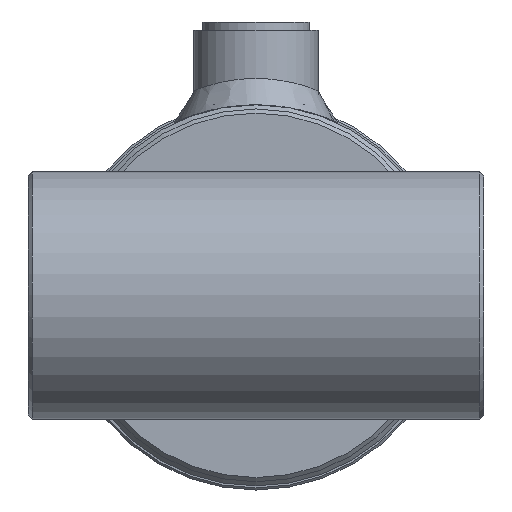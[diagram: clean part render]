
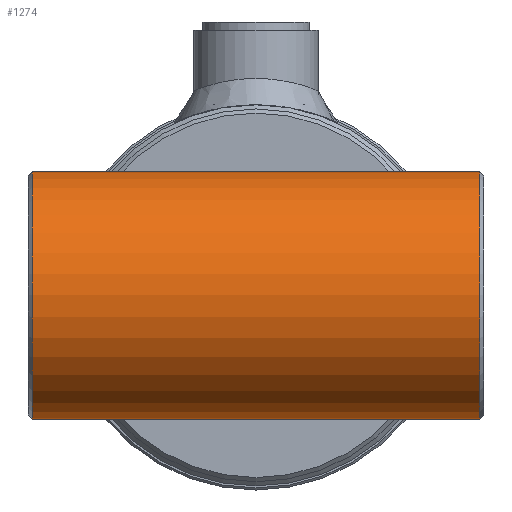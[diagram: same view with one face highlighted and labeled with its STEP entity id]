
A CAD part, left-side view. The second image highlights one B-rep face of the part: STEP entity #1274.
In plain terms, the highlighted cylindrical face has radius 30 mm (diameter 60 mm), a full revolution.
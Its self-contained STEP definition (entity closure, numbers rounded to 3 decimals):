
#1274 = ADVANCED_FACE( '', ( #2438, #2439 ), #2440, .T. );
#2438 = FACE_OUTER_BOUND( '', #8687, .T. );
#2439 = FACE_OUTER_BOUND( '', #8688, .T. );
#2440 = CYLINDRICAL_SURFACE( '', #8689, 30. );
#8687 = EDGE_LOOP( '', ( #11339 ) );
#8688 = EDGE_LOOP( '', ( #11340 ) );
#8689 = AXIS2_PLACEMENT_3D( '', #11341, #11342, #11343 );
#11339 = ORIENTED_EDGE( '', *, *, #12290, .T. );
#11340 = ORIENTED_EDGE( '', *, *, #11950, .T. );
#11341 = CARTESIAN_POINT( '', ( 0., -55., 0. ) );
#11342 = DIRECTION( '', ( 0., -1., 0. ) );
#11343 = DIRECTION( '', ( 0., 0., 1. ) );
#11950 = EDGE_CURVE( '', #12918, #12918, #12919, .T. );
#12290 = EDGE_CURVE( '', #13373, #13373, #13374, .F. );
#12918 = VERTEX_POINT( '', #15264 );
#12919 = CIRCLE( '', #15265, 30. );
#13373 = VERTEX_POINT( '', #16804 );
#13374 = CIRCLE( '', #16805, 30. );
#15264 = CARTESIAN_POINT( '', ( 0., -54., 30. ) );
#15265 = AXIS2_PLACEMENT_3D( '', #17232, #17233, #17234 );
#16804 = CARTESIAN_POINT( '', ( 0., 54., 30. ) );
#16805 = AXIS2_PLACEMENT_3D( '', #17460, #17461, #17462 );
#17232 = CARTESIAN_POINT( '', ( 0., -54., 0. ) );
#17233 = DIRECTION( '', ( 0., 1., 0. ) );
#17234 = DIRECTION( '', ( 0., 0., 1. ) );
#17460 = CARTESIAN_POINT( '', ( 0., 54., 0. ) );
#17461 = DIRECTION( '', ( 0., 1., 0. ) );
#17462 = DIRECTION( '', ( 0., 0., 1. ) );
